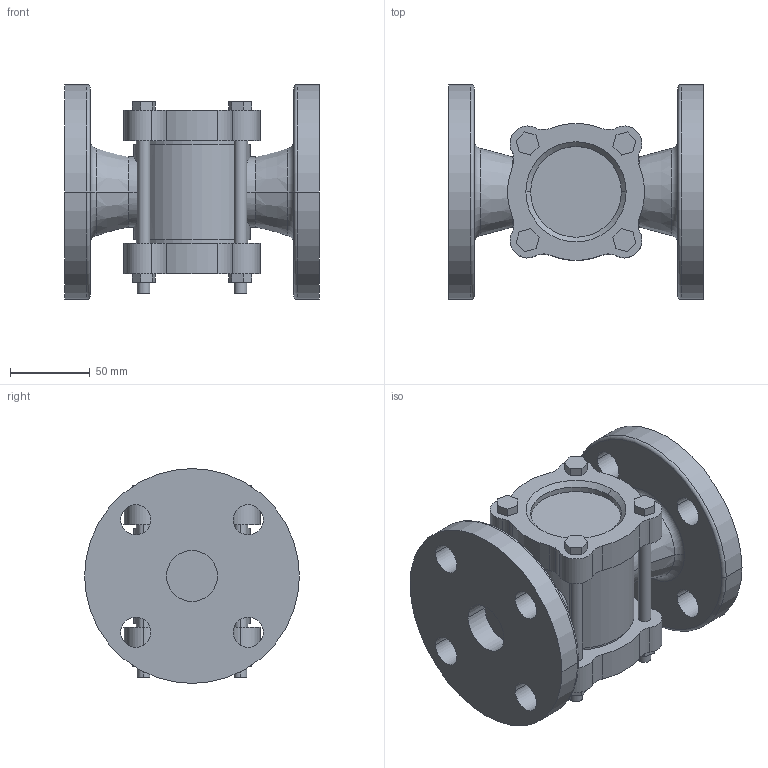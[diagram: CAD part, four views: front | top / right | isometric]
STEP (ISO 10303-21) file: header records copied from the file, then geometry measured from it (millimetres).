
FILE_DESCRIPTION (( 'STEP AP203' ), '1' );
FILE_NAME ('SF-1F 32A.STEP', '2024-09-06T01:14:33', ( '' ), ( '' ), 'SwSTEP 2.0', 'SolidWorks 2024', '' );
FILE_SCHEMA (( 'CONFIG_CONTROL_DESIGN' ));
Length unit declared in the file: millimetre
Products named in the file (1): SF-1F 32A
Bounding box: 160 x 135 x 135 mm (x, y, z)
Volume: 1018597.5 mm3; surface area: 134387.2 mm2
Topology: 1 solids, 1 shells, 186 faces, 470 edges, 308 vertices
Faces by surface type: cylinder 96, plane 74, torus 8, cone 8
Entity records: 6019 total; most frequent: CARTESIAN_POINT 1217, DIRECTION 1048, ORIENTED_EDGE 940, EDGE_CURVE 470, AXIS2_PLACEMENT_3D 399, VERTEX_POINT 308, VECTOR 250, LINE 250
